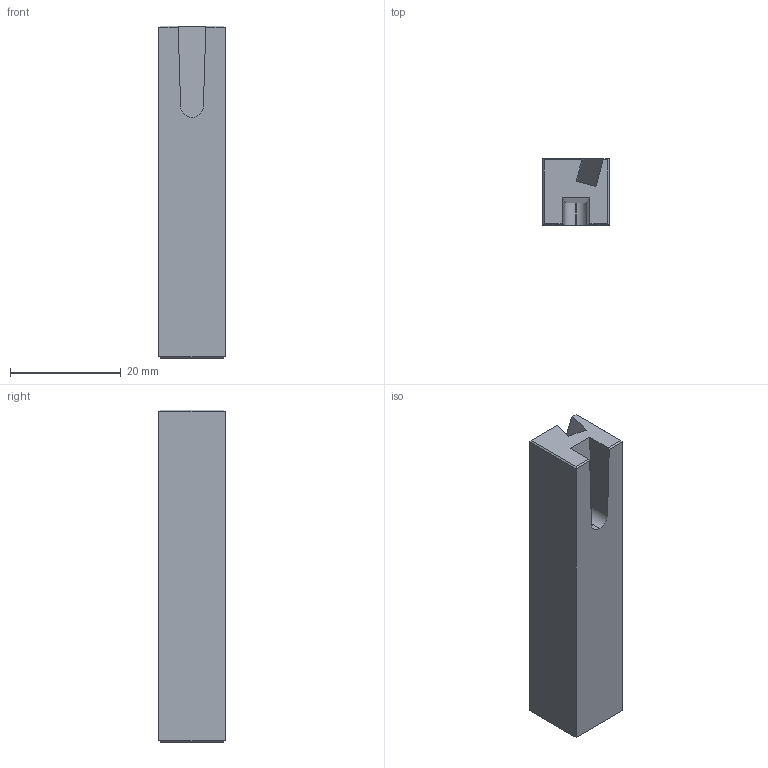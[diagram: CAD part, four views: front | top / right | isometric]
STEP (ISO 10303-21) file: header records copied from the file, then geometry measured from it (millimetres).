
FILE_DESCRIPTION (( 'STEP AP214' ), '1' );
FILE_NAME ('SQ-P12.60.1-3.STEP', '2021-07-13T09:46:54', ( '' ), ( '' ), 'SwSTEP 2.0', 'SolidWorks 2014', '' );
FILE_SCHEMA (( 'AUTOMOTIVE_DESIGN' ));
Length unit declared in the file: millimetre
Products named in the file (1): SQ-P12.60.1-3
Bounding box: 12 x 12 x 60 mm (x, y, z)
Volume: 7406 mm3; surface area: 3964.6 mm2
Topology: 1 solids, 1 shells, 32 faces, 80 edges, 49 vertices
Faces by surface type: plane 24, cylinder 6, cone 2
Entity records: 978 total; most frequent: CARTESIAN_POINT 184, ORIENTED_EDGE 156, DIRECTION 144, EDGE_CURVE 78, VECTOR 62, LINE 62, VERTEX_POINT 49, AXIS2_PLACEMENT_3D 41
